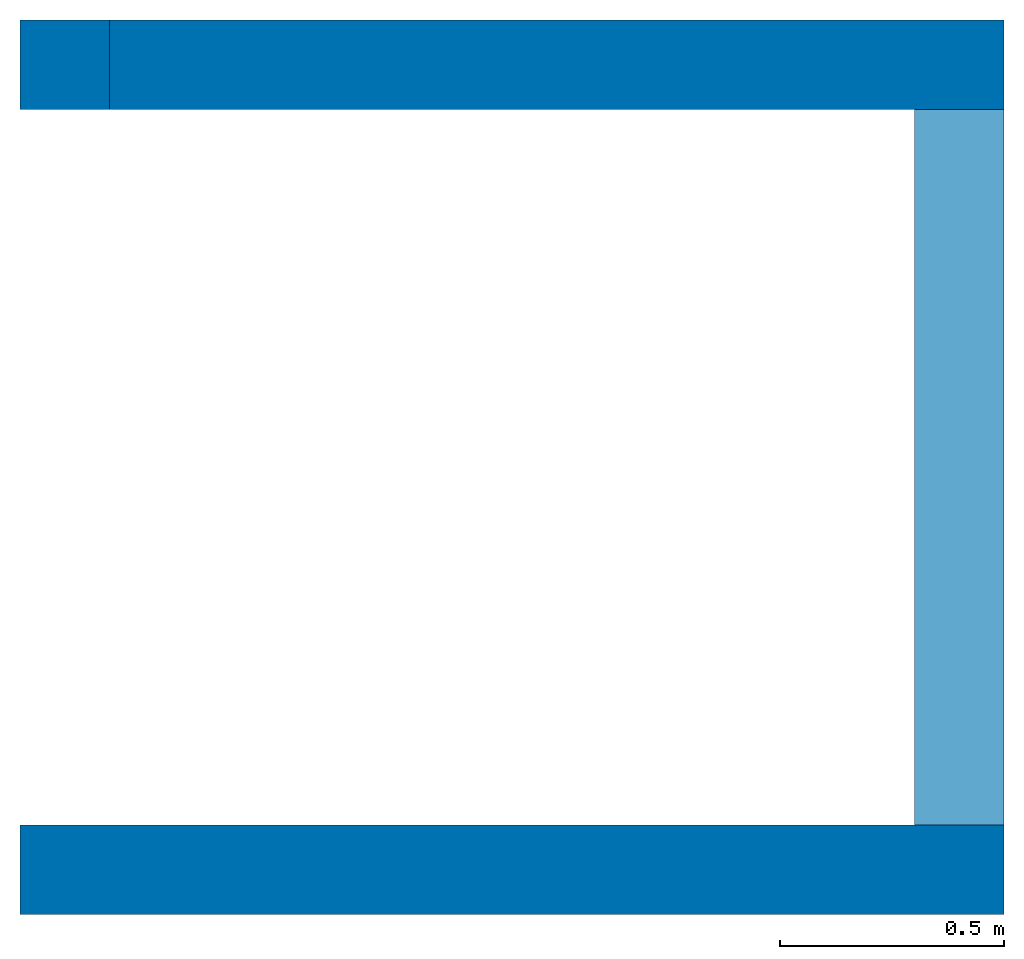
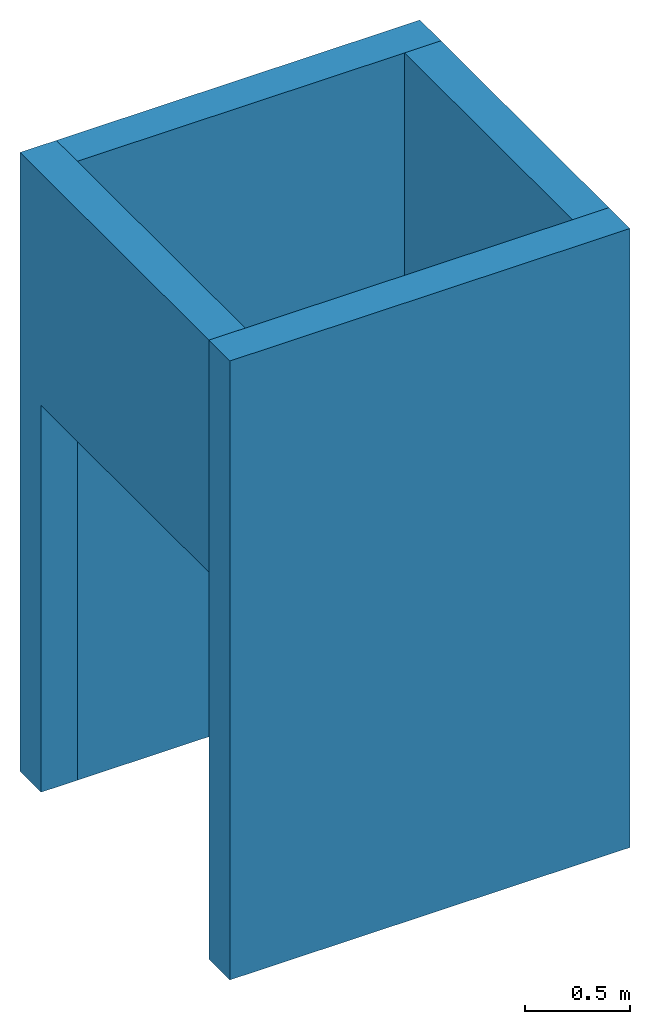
# One storey: 4 walls, 5 openings.
"""IFC2X3 building model written with IfcOpenShell, lengths in metres."""

import ifcopenshell
import ifcopenshell.guid

model = None  # the IFC model being written
_history = None  # IfcOwnerHistory: only IFC2X3 demands one
_inside = {}  # id of a spatial element -> (the spatial element, [elements in it])
_under = {}  # id of a project, library or spatial element -> (it, [spatial elements below it])
_declared = {}  # id of a project -> (the project, [libraries it declares])
_typed = {}  # id of a type object -> (the type object, [elements of that type])
_made_of = {}  # id of a material, layer set ... -> (it, [elements and type objects made of it])


def new_model(schema):
    """Start an empty IFC model of exactly this schema.

    Asked for "IFC4X3", IfcOpenShell would pick the latest addendum, in which some entities
    have other attributes; the version numbers below select the first issue.
    IFC2X3 requires an IfcOwnerHistory on every rooted entity: one is made here for all.
    """
    global model, _history
    if schema == "IFC4X3":
        model = ifcopenshell.file(schema_version=(4, 3, 0, 0))
    else:
        model = ifcopenshell.file(schema=schema)
    _inside.clear()
    _under.clear()
    _declared.clear()
    _typed.clear()
    _made_of.clear()
    _history = None
    if model.schema == "IFC2X3":
        org = make("IfcOrganization", Name="unknown")
        user = make(
            "IfcPersonAndOrganization",
            ThePerson=make("IfcPerson", FamilyName="unknown"),
            TheOrganization=org,
        )
        app = make(
            "IfcApplication",
            ApplicationDeveloper=org,
            Version="unknown",
            ApplicationFullName="unknown",
            ApplicationIdentifier="unknown",
        )
        _history = make(
            "IfcOwnerHistory",
            OwningUser=user,
            OwningApplication=app,
            ChangeAction="ADDED",
            CreationDate=0,
        )
    return model


def make(cls, **values):
    """One entity of the class cls with the attributes given. An attribute that is None is left unset."""
    return model.create_entity(
        cls, **{name: value for name, value in values.items() if value is not None}
    )


def entity(cls, *values):
    """Any entity or typed value of the class cls, its attributes in the order of the schema. None: left unset."""
    e = model.create_entity(cls)
    for i, value in enumerate(values):
        if value is not None:
            e[i] = value
    return e


def rooted(cls, **values):
    """An entity with a GlobalId (a new one), such as an element, a storey or a relation."""
    return make(cls, GlobalId=ifcopenshell.guid.new(), OwnerHistory=_history, **values)


def si_unit(unit_type, name, prefix=None):
    """IfcSIUnit, for example si_unit("LENGTHUNIT", "METRE", prefix="MILLI")."""
    return make("IfcSIUnit", UnitType=unit_type, Prefix=prefix, Name=name)


def converted_unit(unit_type, name, factor, base, dimensions=None, offset=None):
    """IfcConversionBasedUnit, such as the inch: factor (a typed value) times the base unit."""
    return make(
        "IfcConversionBasedUnit"
        if offset is None
        else "IfcConversionBasedUnitWithOffset",
        ConversionOffset=offset,
        Dimensions=None
        if dimensions is None
        else entity("IfcDimensionalExponents", *dimensions),
        UnitType=unit_type,
        Name=name,
        ConversionFactor=make(
            "IfcMeasureWithUnit", ValueComponent=factor, UnitComponent=base
        ),
    )


def derived_unit(unit_type, elements):
    """IfcDerivedUnit: a product of units, each with its exponent."""
    return make(
        "IfcDerivedUnit",
        Elements=[
            make("IfcDerivedUnitElement", Unit=unit, Exponent=power)
            for unit, power in elements
        ],
        UnitType=unit_type,
    )


def assignment(units):
    """IfcUnitAssignment: the units of a project."""
    return None if units is None else make("IfcUnitAssignment", Units=units)


def point(xyz):
    """IfcCartesianPoint."""
    return None if xyz is None else make("IfcCartesianPoint", Coordinates=xyz)


def direction(xyz):
    """IfcDirection."""
    return None if xyz is None else make("IfcDirection", DirectionRatios=xyz)


def frame(location, z_axis=None, x_axis=None):
    """IfcAxis2Placement3D, a coordinate frame: its origin and axes. An axis left out is left unset."""
    return make(
        "IfcAxis2Placement3D",
        Location=point(location),
        Axis=direction(z_axis),
        RefDirection=direction(x_axis),
    )


def frame_2d(location, x_axis=None):
    """IfcAxis2Placement2D, a coordinate frame in the plane: its origin and x axis."""
    return make(
        "IfcAxis2Placement2D", Location=point(location), RefDirection=direction(x_axis)
    )


def origin():
    """The frame at (0, 0, 0) with its axes left unset."""
    return frame((0.0, 0.0, 0.0))


def place(relative_to, where):
    """IfcLocalPlacement: puts the frame where relative to a parent placement (None: the world)."""
    return make(
        "IfcLocalPlacement", PlacementRelTo=relative_to, RelativePlacement=where
    )


def context(
    kind, dimensions, precision=None, world=None, true_north=None, identifier=None
):
    """IfcGeometricRepresentationContext, for example the 3D "Model" context."""
    return make(
        "IfcGeometricRepresentationContext",
        ContextIdentifier=identifier,
        ContextType=kind,
        CoordinateSpaceDimension=dimensions,
        Precision=precision,
        WorldCoordinateSystem=world,
        TrueNorth=true_north,
    )


def subcontext(parent, identifier, kind, view, scale=None):
    """IfcGeometricRepresentationSubContext, for example "Body" below "Model"."""
    return make(
        "IfcGeometricRepresentationSubContext",
        ContextIdentifier=identifier,
        ContextType=kind,
        ParentContext=parent,
        TargetScale=scale,
        TargetView=view,
    )


def project(units=None, contexts=None):
    """IfcProject with its units and contexts."""
    return rooted(
        "IfcProject",
        Name="project",
        RepresentationContexts=contexts,
        UnitsInContext=assignment(units),
    )


def spatial(cls, under=None, at=None, **own):
    """A site, building, storey or space (cls), placed at a placement, below another one or the project."""
    s = rooted(cls, ObjectPlacement=at, **own)
    if under is not None:
        _under.setdefault(under.id(), (under, []))[1].append(s)
    return s


def profile(cls, at=None, kind="AREA", **sizes):
    """A parametric profile (cls). Its sizes go by their IFC names, for example OverallWidth=200.0."""
    return make(cls, ProfileType=kind, Position=at, **sizes)


def rectangle(**sizes):
    """IfcRectangleProfileDef."""
    return profile("IfcRectangleProfileDef", **sizes)


def extrude(swept, where, along, depth):
    """IfcExtrudedAreaSolid: the profile swept, set in the frame where, extruded along a direction by depth."""
    return make(
        "IfcExtrudedAreaSolid",
        SweptArea=swept,
        Position=where,
        ExtrudedDirection=direction(along),
        Depth=depth,
    )


def shape(context_of_items, identifier, shape_type, items):
    """IfcShapeRepresentation: the items that make up one representation, for example the "Body"."""
    return make(
        "IfcShapeRepresentation",
        ContextOfItems=context_of_items,
        RepresentationIdentifier=identifier,
        RepresentationType=shape_type,
        Items=items,
    )


def material(Name=None, Category=None):
    """IfcMaterial."""
    return make("IfcMaterial", Name=Name, Category=Category)


def layer(
    of_material, thickness, ventilated=None, Name=None, Category=None, Priority=None
):
    """IfcMaterialLayer: one layer of a wall or slab, of a material (None: an air gap)."""
    return make(
        "IfcMaterialLayer",
        Material=of_material,
        LayerThickness=thickness,
        IsVentilated=ventilated,
        Name=Name,
        Category=Category,
        Priority=Priority,
    )


def layer_set(layers, Name=None):
    """IfcMaterialLayerSet."""
    return make("IfcMaterialLayerSet", MaterialLayers=layers, LayerSetName=Name)


def layer_usage(for_layer_set, set_direction, sense, offset, extent=None):
    """IfcMaterialLayerSetUsage: how a layer set lies in its element."""
    return make(
        "IfcMaterialLayerSetUsage",
        ForLayerSet=for_layer_set,
        LayerSetDirection=set_direction,
        DirectionSense=sense,
        OffsetFromReferenceLine=offset,
        ReferenceExtent=extent,
    )


def made_of(thing, what):
    """Note that an element or type object is made of a material, layer set ...; save() writes the relation."""
    if what is not None:
        _made_of.setdefault(what.id(), (what, []))[1].append(thing)
    return thing


def type_object(cls, material=None, **own):
    """A type object (cls), such as IfcWallType, which elements share."""
    return made_of(rooted(cls, **own), material)


def element(
    cls,
    number,
    at=None,
    inside=None,
    cuts=None,
    type_object=None,
    material=None,
    context=None,
    identifier="Body",
    shape_type=None,
    held_by="IfcProductDefinitionShape",
    body=None,
    shapes=None,
    **own,
):
    """One element of the class cls, such as IfcWall. Its Tag is "e" and its number.

    at: its placement. inside: the storey or other place that contains it. cuts: it is an
    opening in that element (IfcRelVoidsElement). A single representation is given by context,
    identifier, shape_type and body (its items); several are given by shapes. held_by: the class
    of the entity that holds the representations. save() writes the other relations.
    """
    e = rooted(cls, Tag="e%d" % number, ObjectPlacement=at, **own)
    if body is not None:
        shapes = [shape(context, identifier, shape_type, body)]
    if shapes is not None:
        e.Representation = make(held_by, Representations=shapes)
    if inside is not None:
        _inside.setdefault(inside.id(), (inside, []))[1].append(e)
    if cuts is not None:
        rooted(
            "IfcRelVoidsElement", RelatingBuildingElement=cuts, RelatedOpeningElement=e
        )
    if type_object is not None:
        _typed.setdefault(type_object.id(), (type_object, []))[1].append(e)
    return made_of(e, material)


def aggregate(whole, parts):
    """IfcRelAggregates: a whole, such as a stair, and the parts it consists of."""
    return rooted("IfcRelAggregates", RelatingObject=whole, RelatedObjects=parts)


def save(model, path):
    """Write the relations noted so far, then the file.

    IfcRelAggregates (storeys below a building ...), IfcRelContainedInSpatialStructure (elements
    in a storey), IfcRelDefinesByType, IfcRelAssociatesMaterial and IfcRelDeclares: one each for
    every whole, place, type object, material and project.
    """
    for whole, parts in _under.values():
        aggregate(whole, parts)
    for where, things in _inside.values():
        rooted(
            "IfcRelContainedInSpatialStructure",
            RelatedElements=things,
            RelatingStructure=where,
        )
    for kind, things in _typed.values():
        rooted("IfcRelDefinesByType", RelatedObjects=things, RelatingType=kind)
    for what, things in _made_of.values():
        rooted("IfcRelAssociatesMaterial", RelatedObjects=things, RelatingMaterial=what)
    for by, libraries in _declared.values():
        rooted("IfcRelDeclares", RelatingContext=by, RelatedDefinitions=libraries)
    model.write(path)


model = new_model("IFC2X3")

# Units and contexts
model_context = context("Model", 3, precision=1e-05, world=origin(), true_north=direction((6.12303176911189e-17, 1.0)))
body_context = subcontext(model_context, "Body", "Model", "MODEL_VIEW")
ifc_project = project(units=[si_unit("LENGTHUNIT", "METRE"), si_unit("AREAUNIT", "SQUARE_METRE"), si_unit("VOLUMEUNIT", "CUBIC_METRE"), converted_unit("PLANEANGLEUNIT", "DEGREE", entity("IfcRatioMeasure", 0.0174532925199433), si_unit("PLANEANGLEUNIT", "RADIAN"), dimensions=[0, 0, 0, 0, 0, 0, 0]), si_unit("MASSUNIT", "GRAM", prefix="KILO"), derived_unit("MASSDENSITYUNIT", [(si_unit("MASSUNIT", "GRAM", prefix="KILO"), 1), (si_unit("LENGTHUNIT", "METRE"), -3)]), si_unit("TIMEUNIT", "SECOND"), si_unit("FREQUENCYUNIT", "HERTZ"), si_unit("THERMODYNAMICTEMPERATUREUNIT", "DEGREE_CELSIUS"), derived_unit("THERMALTRANSMITTANCEUNIT", [(si_unit("MASSUNIT", "GRAM", prefix="KILO"), 1), (si_unit("THERMODYNAMICTEMPERATUREUNIT", "KELVIN"), -1), (si_unit("TIMEUNIT", "SECOND"), -3)]), derived_unit("VOLUMETRICFLOWRATEUNIT", [(si_unit("LENGTHUNIT", "METRE"), 3), (si_unit("TIMEUNIT", "SECOND"), -1)]), si_unit("ELECTRICCURRENTUNIT", "AMPERE"), si_unit("ELECTRICVOLTAGEUNIT", "VOLT"), si_unit("POWERUNIT", "WATT"), si_unit("FORCEUNIT", "NEWTON"), si_unit("ILLUMINANCEUNIT", "LUX"), si_unit("LUMINOUSFLUXUNIT", "LUMEN"), si_unit("LUMINOUSINTENSITYUNIT", "CANDELA"), derived_unit("USERDEFINED", [(si_unit("MASSUNIT", "GRAM", prefix="KILO"), -1), (si_unit("LENGTHUNIT", "METRE"), -2), (si_unit("TIMEUNIT", "SECOND"), 3), (si_unit("LUMINOUSFLUXUNIT", "LUMEN"), 1)]), derived_unit("LINEARVELOCITYUNIT", [(si_unit("LENGTHUNIT", "METRE"), 1), (si_unit("TIMEUNIT", "SECOND"), -1)]), si_unit("PRESSUREUNIT", "PASCAL"), derived_unit("USERDEFINED", [(si_unit("LENGTHUNIT", "METRE"), -2), (si_unit("MASSUNIT", "GRAM", prefix="KILO"), 1), (si_unit("TIMEUNIT", "SECOND"), -2)])], contexts=[model_context])

# Site, building, storey
site_placement = place(None, origin())
site = spatial("IfcSite", under=ifc_project, at=site_placement, Name="Default", CompositionType="ELEMENT")
building_placement = place(site_placement, origin())
building = spatial("IfcBuilding", under=site, at=building_placement, CompositionType="ELEMENT")
storey_placement = place(building_placement, frame((0.0, 0.0, 7.55)))
storey = spatial("IfcBuildingStorey", under=building, at=storey_placement, Name="01", CompositionType="ELEMENT", Elevation=7.55)

# Wall, opening
ifc_material = material(Name="Mur par défaut")
ifc_layer = layer(ifc_material, 0.2)
ifc_layer_set = layer_set([ifc_layer], Name="Basic Wall:Mur BA - 20cm")
ifc_layer_usage_1 = layer_usage(ifc_layer_set, "AXIS2", "NEGATIVE", 0.1)
wall_type = type_object("IfcWallType", Name="Basic Wall:Mur BA - 20cm", PredefinedType="STANDARD", material=ifc_layer_set)
wall_1_placement = place(storey_placement, frame((47.9497436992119, -185.206488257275, 0.0), z_axis=(0.0, 0.0, 1.0), x_axis=(-1.0, 0.0, 0.0)))
wall_1 = element("IfcWallStandardCase", 1, at=wall_1_placement, inside=storey, type_object=wall_type, material=ifc_layer_usage_1, Name="Basic Wall:Mur BA - 20cm", ObjectType="Basic Wall:Mur BA - 20cm", context=body_context, shape_type="SweptSolid", body=[
    extrude(rectangle(XDim=1.99999999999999, YDim=0.200000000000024, at=frame_2d((0.999999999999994, 3.4555691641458e-15), x_axis=(-1.0, 0.0))), origin(), (0.0, 0.0, 1.0), 3.6),
])
opening_1_placement = place(wall_1_placement, origin())
element("IfcOpeningElement", 2, at=opening_1_placement, cuts=wall_1, Name="Basic Wall:Mur BA - 20cm", ObjectType="Opening", context=body_context, shape_type="SweptSolid", body=[
    extrude(rectangle(XDim=2.24999999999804, YDim=0.199999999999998, at=frame_2d((-4.32986979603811e-15, 0.0), x_axis=(0.0, 1.0))), frame((0.100000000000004, 0.099999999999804, 1.12499999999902), z_axis=(0.0, 1.0, 0.0), x_axis=(1.0, 0.0, 0.0)), (0.0, 0.0, 1.0), 1.59999999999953),
])

ifc_layer_usage_2 = layer_usage(ifc_layer_set, "AXIS2", "NEGATIVE", 0.1)
wall_2_placement = place(storey_placement, frame((45.8497436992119, -185.106488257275, 0.0), z_axis=(0.0, 0.0, 1.0), x_axis=(0.0, -1.0, 0.0)))
wall_2 = element("IfcWallStandardCase", 3, at=wall_2_placement, inside=storey, type_object=wall_type, material=ifc_layer_usage_2, Name="Basic Wall:Mur BA - 20cm", ObjectType="Basic Wall:Mur BA - 20cm", context=body_context, shape_type="SweptSolid", body=[
    extrude(rectangle(XDim=1.79999999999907, YDim=0.200000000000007, at=frame_2d((0.899999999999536, 0.0), x_axis=(-1.0, 0.0))), origin(), (0.0, 0.0, 1.0), 3.6),
])
opening_2_placement = place(wall_2_placement, frame((-185.106488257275, -45.8497436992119, 0.0), z_axis=(0.0, 0.0, 1.0), x_axis=(0.0, 1.0, 0.0)))
element("IfcOpeningElement", 4, at=opening_2_placement, cuts=wall_2, Name="Basic Wall:Mur BA - 20cm", ObjectType="Opening", context=body_context, shape_type="SweptSolid", body=[
    extrude(rectangle(XDim=2.24999999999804, YDim=1.59999999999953, at=frame_2d((0.0, 1.73194791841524e-14), x_axis=(1.0, 0.0))), frame((44.4257436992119, -186.106488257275, 1.12499999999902), z_axis=(1.0, 0.0, 0.0), x_axis=(0.0, 0.0, 1.0)), (0.0, 0.0, 1.0), 3.048),
])

# Wall, openings
ifc_layer_usage_3 = layer_usage(ifc_layer_set, "AXIS2", "NEGATIVE", 0.1)
wall_3_placement = place(storey_placement, frame((45.7497436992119, -187.006488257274, 0.0)))
wall_3 = element("IfcWallStandardCase", 5, at=wall_3_placement, inside=storey, type_object=wall_type, material=ifc_layer_usage_3, Name="Basic Wall:Mur BA - 20cm", ObjectType="Basic Wall:Mur BA - 20cm", context=body_context, shape_type="SweptSolid", body=[
    extrude(rectangle(XDim=2.19999999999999, YDim=0.200000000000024, at=frame_2d((1.09999999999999, 0.0), x_axis=(-1.0, 0.0))), origin(), (0.0, 0.0, 1.0), 3.6),
])
opening_3_placement = place(wall_3_placement, origin())
element("IfcOpeningElement", 6, at=opening_3_placement, cuts=wall_3, Name="Basic Wall:Mur BA - 20cm", ObjectType="Opening", context=body_context, shape_type="SweptSolid", body=[
    extrude(rectangle(XDim=2.24999999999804, YDim=0.199999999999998, at=frame_2d((4.32986979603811e-15, 9.99200722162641e-16), x_axis=(0.0, 1.0))), frame((0.100000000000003, 0.0999999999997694, 1.12499999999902), z_axis=(0.0, 1.0, 0.0), x_axis=(-1.0, 0.0, 0.0)), (0.0, 0.0, 1.0), 1.59999999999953),
])
opening_4_placement = place(wall_3_placement, origin())
element("IfcOpeningElement", 7, at=opening_4_placement, cuts=wall_3, Name="Basic Wall:Mur BA - 20cm", ObjectType="Opening", context=body_context, shape_type="SweptSolid", body=[
    extrude(rectangle(XDim=2.24999999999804, YDim=0.199999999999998, at=frame_2d((-4.32986979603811e-15, 9.99200722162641e-16), x_axis=(0.0, 1.0))), frame((2.09999999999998, 0.0999999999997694, 1.12499999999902), z_axis=(0.0, 1.0, 0.0), x_axis=(-1.0, 0.0, 0.0)), (0.0, 0.0, 1.0), 1.59999999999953),
])

# Wall, opening
ifc_layer_usage_4 = layer_usage(ifc_layer_set, "AXIS2", "NEGATIVE", 0.1)
wall_4_placement = place(storey_placement, frame((47.8497436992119, -186.906488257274, 2.24999999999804), z_axis=(0.0, 0.0, 1.0), x_axis=(0.0, 1.0, 0.0)))
wall_4 = element("IfcWallStandardCase", 8, at=wall_4_placement, inside=storey, type_object=wall_type, material=ifc_layer_usage_4, Name="Basic Wall:Mur BA - 20cm", ObjectType="Basic Wall:Mur BA - 20cm", context=body_context, shape_type="SweptSolid", body=[
    extrude(rectangle(XDim=1.59999999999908, YDim=0.200000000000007, at=frame_2d((0.799999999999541, 0.0), x_axis=(-1.0, 0.0))), origin(), (0.0, 0.0, 1.0), 1.35000000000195),
])
opening_5_placement = place(wall_4_placement, frame((186.906488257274, 47.8497436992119, -2.24999999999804), z_axis=(0.0, 0.0, 1.0), x_axis=(0.0, -1.0, 0.0)))
element("IfcOpeningElement", 9, at=opening_5_placement, cuts=wall_4, Name="Basic Wall:Mur BA - 20cm", ObjectType="Opening", context=body_context, shape_type="SweptSolid", body=[
    extrude(rectangle(XDim=2.24999999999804, YDim=1.59999999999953, at=frame_2d((1.73194791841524e-14, 9.99200722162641e-16), x_axis=(0.0, 1.0))), frame((49.4737436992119, -186.106488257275, 1.12499999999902), z_axis=(-1.0, 0.0, 0.0), x_axis=(0.0, -1.0, 0.0)), (0.0, 0.0, 1.0), 3.048),
])

save(model, "model.ifc")
